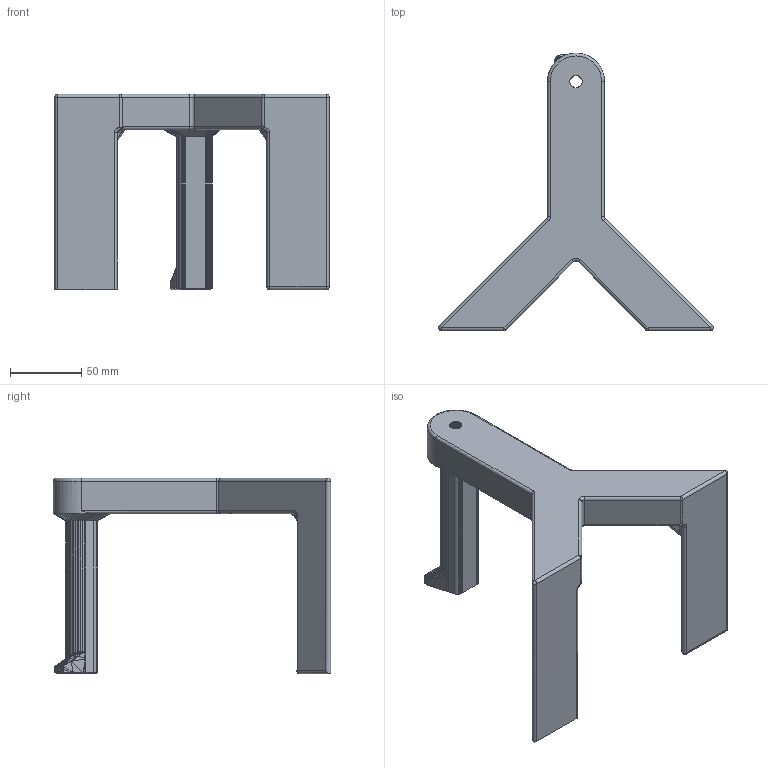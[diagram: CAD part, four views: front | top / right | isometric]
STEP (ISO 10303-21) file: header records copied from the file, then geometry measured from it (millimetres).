
FILE_DESCRIPTION(/* description */ (''),/* implementation_level */ '2;1');
FILE_NAME(/* name */ 'C:/Users/Micha/OneDrive/Desktop/spool holder one piece 92,5mm.step',/* time_stamp */ '2022-02-23T11:51:50+01:00',/* author */ (''),/* organization */ (''),/* preprocessor_version */ 'ST-DEVELOPER v18.1',/* originating_system */ 'Autodesk Translation Framework v10.13.0.1454',/* authorisation */ '');
FILE_SCHEMA (('AUTOMOTIVE_DESIGN { 1 0 10303 214 3 1 1 }'));
Length unit declared in the file: millimetre
Products named in the file (1): spool holder one piece
Bounding box: 192.73 x 195 x 137.5 mm (x, y, z)
Volume: 468657.5 mm3; surface area: 76773.6 mm2
Topology: 1 solids, 1 shells, 625 faces, 1315 edges, 683 vertices
Faces by surface type: plane 482, bspline 64, cylinder 53, sphere 13, torus 11, cone 2
Entity records: 18231 total; most frequent: CARTESIAN_POINT 4658, ORIENTED_EDGE 2796, DIRECTION 2629, EDGE_CURVE 1398, LINE 1209, VECTOR 1209, VERTEX_POINT 821, AXIS2_PLACEMENT_3D 710
